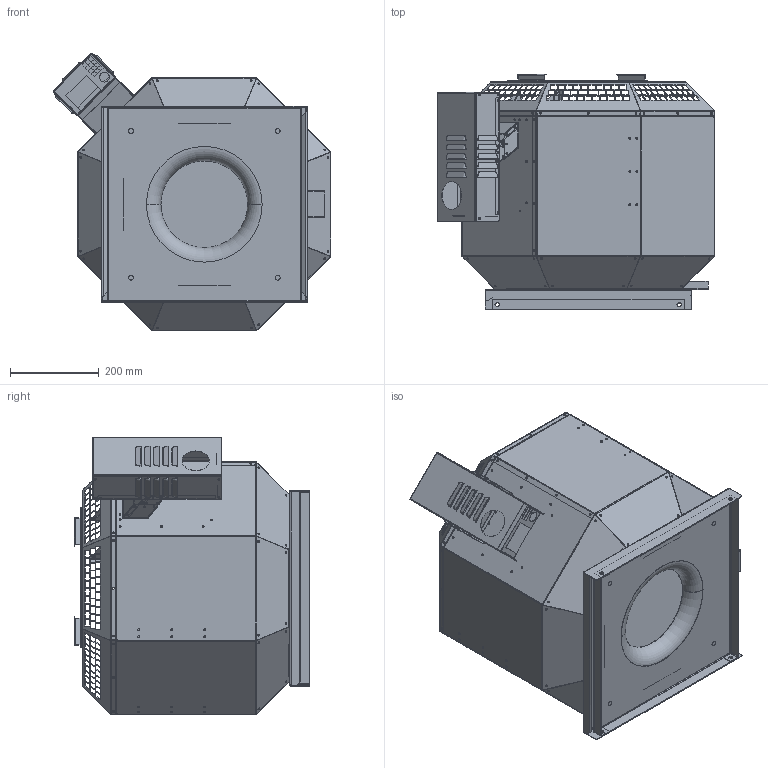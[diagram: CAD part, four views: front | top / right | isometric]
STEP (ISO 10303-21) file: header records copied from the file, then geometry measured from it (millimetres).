
FILE_DESCRIPTION (( 'STEP AP203' ), '1' );
FILE_NAME ('142179-00_DVN315D2F430_step.step', '2018-06-27T07:39:38', ( '' ), ( '' ), 'SwSTEP 2.0', 'SolidWorks 2017', '' );
FILE_SCHEMA (( 'CONFIG_CONTROL_DESIGN' ));
Products named in the file (1): 142179-00_DVN315D2F430_step
Bounding box: 624.22 x 528.51 x 624.22 mm (x, y, z)
Surface area: 3228099.6 mm2 (no closed solid volume)
Topology: 0 solids, 43 shells, 2249 faces, 9243 edges, 6568 vertices
Faces by surface type: plane 1711, cylinder 444, bspline 86, torus 4, cone 4
Entity records: 114011 total; most frequent: CARTESIAN_POINT 36565, DIRECTION 14635, ORIENTED_EDGE 14583, EDGE_CURVE 9243, LINE 7241, VECTOR 7241, VERTEX_POINT 6568, EDGE_LOOP 3819
